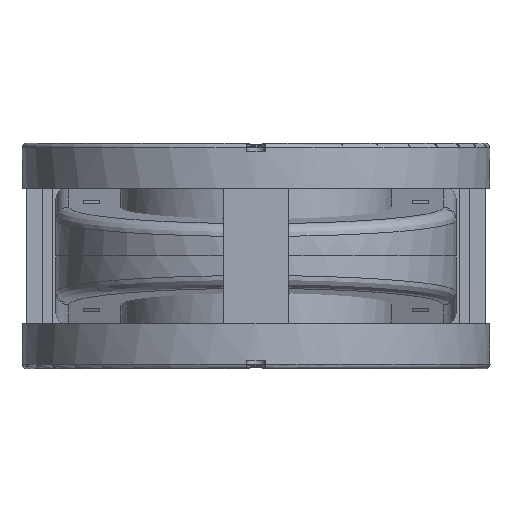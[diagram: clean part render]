
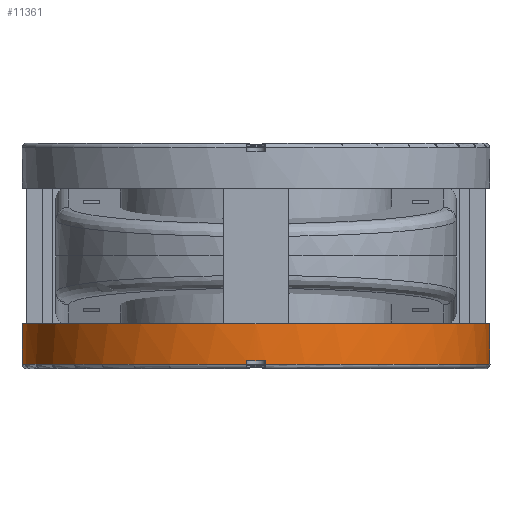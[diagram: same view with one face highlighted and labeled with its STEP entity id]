
A CAD part, front view. The second image highlights one B-rep face of the part: STEP entity #11361.
In plain terms, the highlighted cylindrical face has radius 72.5 mm (diameter 145 mm), a full revolution.
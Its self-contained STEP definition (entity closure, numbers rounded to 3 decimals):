
#7031=CIRCLE('',#36674,72.5);
#7032=CIRCLE('',#36676,72.5);
#7033=CIRCLE('',#36677,72.5);
#7034=CIRCLE('',#36678,72.5);
#7035=CIRCLE('',#36680,72.5);
#11361=ADVANCED_FACE('',(#13347,#13348),#12801,.T.);
#12801=CYLINDRICAL_SURFACE('',#36681,72.5);
#13347=FACE_BOUND('',#14612,.T.);
#13348=FACE_BOUND('',#14613,.T.);
#14612=EDGE_LOOP('',(#18328,#18329,#18330,#18331,#18332,#18333,#18334,#18335));
#14613=EDGE_LOOP('',(#18336,#18337));
#16471=ELLIPSE('',#36679,72.777,72.5);
#18328=ORIENTED_EDGE('',*,*,#28749,.F.);
#18329=ORIENTED_EDGE('',*,*,#28750,.F.);
#18330=ORIENTED_EDGE('',*,*,#28751,.F.);
#18331=ORIENTED_EDGE('',*,*,#28744,.T.);
#18332=ORIENTED_EDGE('',*,*,#28752,.F.);
#18333=ORIENTED_EDGE('',*,*,#28753,.F.);
#18334=ORIENTED_EDGE('',*,*,#28754,.F.);
#18335=ORIENTED_EDGE('',*,*,#28755,.T.);
#18336=ORIENTED_EDGE('',*,*,#28756,.T.);
#18337=ORIENTED_EDGE('',*,*,#28757,.T.);
#25525=VERTEX_POINT('',#50352);
#25528=VERTEX_POINT('',#50357);
#25533=VERTEX_POINT('',#50381);
#25534=VERTEX_POINT('',#50382);
#25535=VERTEX_POINT('',#50384);
#25536=VERTEX_POINT('',#50387);
#25537=VERTEX_POINT('',#50389);
#25538=VERTEX_POINT('',#50391);
#25539=VERTEX_POINT('',#50394);
#25540=VERTEX_POINT('',#50395);
#28744=EDGE_CURVE('',#25525,#25528,#7031,.T.);
#28749=EDGE_CURVE('',#25533,#25534,#32312,.T.);
#28750=EDGE_CURVE('',#25535,#25533,#7032,.T.);
#28751=EDGE_CURVE('',#25525,#25535,#32313,.T.);
#28752=EDGE_CURVE('',#25536,#25528,#32314,.T.);
#28753=EDGE_CURVE('',#25537,#25536,#7033,.T.);
#28754=EDGE_CURVE('',#25538,#25537,#32315,.T.);
#28755=EDGE_CURVE('',#25538,#25534,#7034,.T.);
#28756=EDGE_CURVE('',#25539,#25540,#16471,.T.);
#28757=EDGE_CURVE('',#25540,#25539,#7035,.T.);
#32312=LINE('',#50380,#34357);
#32313=LINE('',#50385,#34358);
#32314=LINE('',#50386,#34359);
#32315=LINE('',#50390,#34360);
#34357=VECTOR('',#40412,1.);
#34358=VECTOR('',#40415,1.);
#34359=VECTOR('',#40416,1.);
#34360=VECTOR('',#40419,1.);
#36674=AXIS2_PLACEMENT_3D('',#50358,#40408,#40409);
#36676=AXIS2_PLACEMENT_3D('',#50383,#40413,#40414);
#36677=AXIS2_PLACEMENT_3D('',#50388,#40417,#40418);
#36678=AXIS2_PLACEMENT_3D('',#50392,#40420,#40421);
#36679=AXIS2_PLACEMENT_3D('',#50393,#40422,#40423);
#36680=AXIS2_PLACEMENT_3D('',#50396,#40424,#40425);
#36681=AXIS2_PLACEMENT_3D('',#50397,#40426,#40427);
#40408=DIRECTION('',(1.,0.,0.));
#40409=DIRECTION('',(0.,0.,1.));
#40412=DIRECTION('',(1.,0.,0.));
#40413=DIRECTION('',(-1.,0.,0.));
#40414=DIRECTION('',(0.,0.,1.));
#40415=DIRECTION('',(-1.,0.,0.));
#40416=DIRECTION('',(1.,0.,0.));
#40417=DIRECTION('',(-1.,0.,0.));
#40418=DIRECTION('',(0.,0.,1.));
#40419=DIRECTION('',(-1.,0.,0.));
#40420=DIRECTION('',(1.,0.,0.));
#40421=DIRECTION('',(0.,0.,1.));
#40422=DIRECTION('',(-0.996,-0.087,0.));
#40423=DIRECTION('',(-0.087,0.996,0.));
#40424=DIRECTION('',(-1.,0.,0.));
#40425=DIRECTION('',(0.,0.,1.));
#40426=DIRECTION('',(-1.,0.,0.));
#40427=DIRECTION('',(0.,0.,1.));
#50352=CARTESIAN_POINT('',(2.5,-72.438,3.));
#50357=CARTESIAN_POINT('',(2.5,-72.438,-3.));
#50358=CARTESIAN_POINT('',(2.5,0.,0.));
#50380=CARTESIAN_POINT('',(0.,72.438,3.));
#50381=CARTESIAN_POINT('',(1.5,72.438,3.));
#50382=CARTESIAN_POINT('',(2.5,72.438,3.));
#50383=CARTESIAN_POINT('',(1.5,0.,0.));
#50384=CARTESIAN_POINT('',(1.5,-72.438,3.));
#50385=CARTESIAN_POINT('',(0.,-72.438,3.));
#50386=CARTESIAN_POINT('',(0.,-72.438,-3.));
#50387=CARTESIAN_POINT('',(1.5,-72.438,-3.));
#50388=CARTESIAN_POINT('',(1.5,0.,0.));
#50389=CARTESIAN_POINT('',(1.5,72.438,-3.));
#50390=CARTESIAN_POINT('',(0.,72.438,-3.));
#50391=CARTESIAN_POINT('',(2.5,72.438,-3.));
#50392=CARTESIAN_POINT('',(2.5,0.,0.));
#50393=CARTESIAN_POINT('',(19.843,0.,0.));
#50394=CARTESIAN_POINT('',(14.,66.785,28.214));
#50395=CARTESIAN_POINT('',(14.,66.785,-28.214));
#50396=CARTESIAN_POINT('',(14.,0.,0.));
#50397=CARTESIAN_POINT('',(0.,0.,0.));
